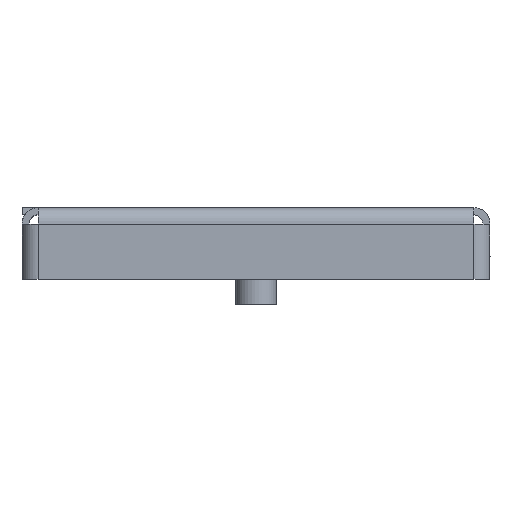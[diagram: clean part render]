
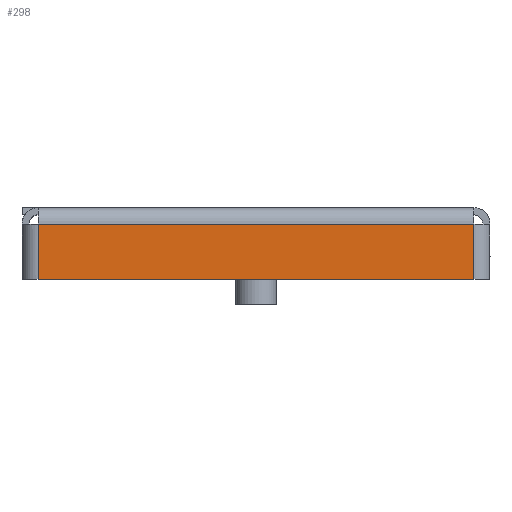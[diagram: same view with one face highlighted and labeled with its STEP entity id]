
A CAD part, left-side view. The second image highlights one B-rep face of the part: STEP entity #298.
In plain terms, the highlighted planar face has unit normal (-1, 0, 0).
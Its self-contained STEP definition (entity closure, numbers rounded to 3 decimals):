
#298=ADVANCED_FACE('',(#1730),#1732,.F.);
#1730=FACE_BOUND('',#1731,.T.);
#1731=EDGE_LOOP('',(#3210,#3211,#3212,#3213));
#1732=PLANE('',#1733);
#1733=AXIS2_PLACEMENT_3D('',#1734,#1735,#1736);
#1734=CARTESIAN_POINT('',(-186.043,-7.555,0.));
#1735=DIRECTION('',(1.,0.,0.));
#1736=DIRECTION('',(0.,0.,-1.));
#3210=ORIENTED_EDGE('',*,*,#3957,.F.);
#3211=ORIENTED_EDGE('',*,*,#3959,.F.);
#3212=ORIENTED_EDGE('',*,*,#3960,.F.);
#3213=ORIENTED_EDGE('',*,*,#3961,.F.);
#3957=EDGE_CURVE('',#4475,#4468,#4479,.T.);
#3959=EDGE_CURVE('',#4481,#4475,#4482,.T.);
#3960=EDGE_CURVE('',#4483,#4481,#4484,.T.);
#3961=EDGE_CURVE('',#4468,#4483,#4485,.T.);
#4468=VERTEX_POINT('',#5439);
#4475=VERTEX_POINT('',#5459);
#4479=LINE('',#5470,#5471);
#4481=VERTEX_POINT('',#5476);
#4482=LINE('',#5477,#5478);
#4483=VERTEX_POINT('',#5480);
#4484=LINE('',#5481,#5482);
#4485=LINE('',#5484,#5485);
#5439=CARTESIAN_POINT('',(-186.043,-50.105,-3.2));
#5459=CARTESIAN_POINT('',(-186.043,34.995,-3.2));
#5470=CARTESIAN_POINT('',(-186.043,34.995,-3.2));
#5471=VECTOR('',#5472,1.);
#5472=DIRECTION('',(0.,-1.,0.));
#5476=CARTESIAN_POINT('',(-186.043,34.995,-14.));
#5477=CARTESIAN_POINT('',(-186.043,34.995,-14.));
#5478=VECTOR('',#5479,1.);
#5479=DIRECTION('',(0.,0.,1.));
#5480=CARTESIAN_POINT('',(-186.043,-50.105,-14.));
#5481=CARTESIAN_POINT('',(-186.043,-50.105,-14.));
#5482=VECTOR('',#5483,1.);
#5483=DIRECTION('',(0.,1.,0.));
#5484=CARTESIAN_POINT('',(-186.043,-50.105,-3.2));
#5485=VECTOR('',#5486,1.);
#5486=DIRECTION('',(0.,0.,-1.));
